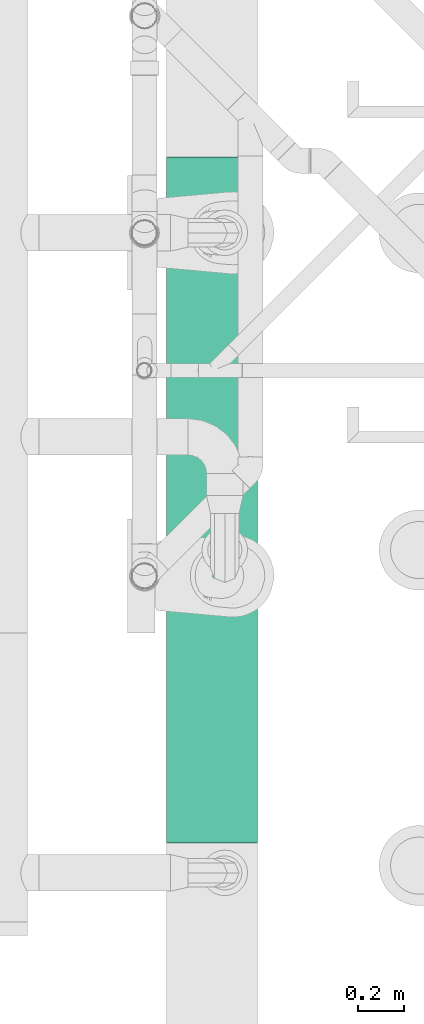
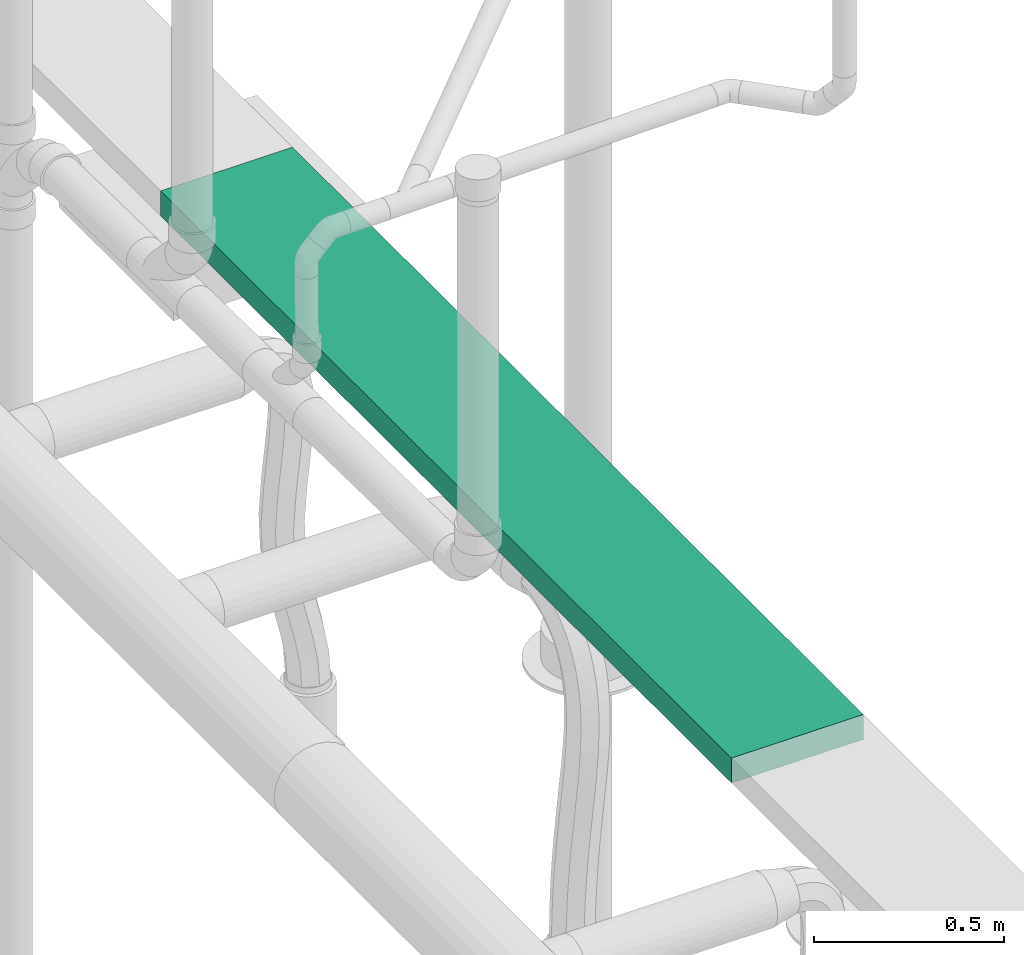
# One storey, part 12 of 374: 1 distribution element.
"""IFC2X3 building model written with IfcOpenShell, lengths in metres."""

from ifc_helpers import new_model, si_unit, direction, frame, frame_2d, origin, place, context, subcontext, project, spatial, rectangle, extrude, element, save


model = new_model("IFC2X3")

# Units and contexts
model_context = context("Model", 3, precision=1e-05, world=origin(), true_north=direction((-0.4480736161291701, 0.8939966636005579)))
body_context = subcontext(model_context, "Body", "Model", "MODEL_VIEW")
ifc_project = project(units=[si_unit("LENGTHUNIT", "METRE"), si_unit("AREAUNIT", "SQUARE_METRE"), si_unit("VOLUMEUNIT", "CUBIC_METRE"), si_unit("PLANEANGLEUNIT", "RADIAN"), si_unit("THERMODYNAMICTEMPERATUREUNIT", "KELVIN"), si_unit("MASSUNIT", "GRAM", prefix="KILO"), si_unit("TIMEUNIT", "SECOND")], contexts=[model_context])

# Site, building, storey
site_placement = place(None, origin())
site = spatial("IfcSite", under=ifc_project, at=site_placement, Name="Site 1", CompositionType="ELEMENT")
building_placement = place(site_placement, origin())
building = spatial("IfcBuilding", under=site, at=building_placement, Name="Undefined", CompositionType="ELEMENT")
storey_placement = place(building_placement, origin())
storey = spatial("IfcBuildingStorey", under=building, at=storey_placement, Name="Rez de chauss\x8ee", CompositionType="ELEMENT", Elevation=0.0)

# Distribution element
distribution_element_placement = place(storey_placement, origin())
element("IfcDistributionElement", 1, at=distribution_element_placement, inside=storey, Name="Chemin(s) de câbles", ObjectType="Chemin(s) de câbles", context=body_context, shape_type="SweptSolid", body=[
    extrude(rectangle(XDim=0.4, YDim=0.08, at=frame_2d((3.552713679e-15, 0.0), x_axis=(-1.0, 0.0))), frame((57.36899699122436, 13.143616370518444, 4.14), z_axis=(0.0, -1.0, 0.0), x_axis=(1.0, 0.0, 0.0)), (0.0, 0.0, 1.0), 3.0),
])

save(model, "model.ifc")
